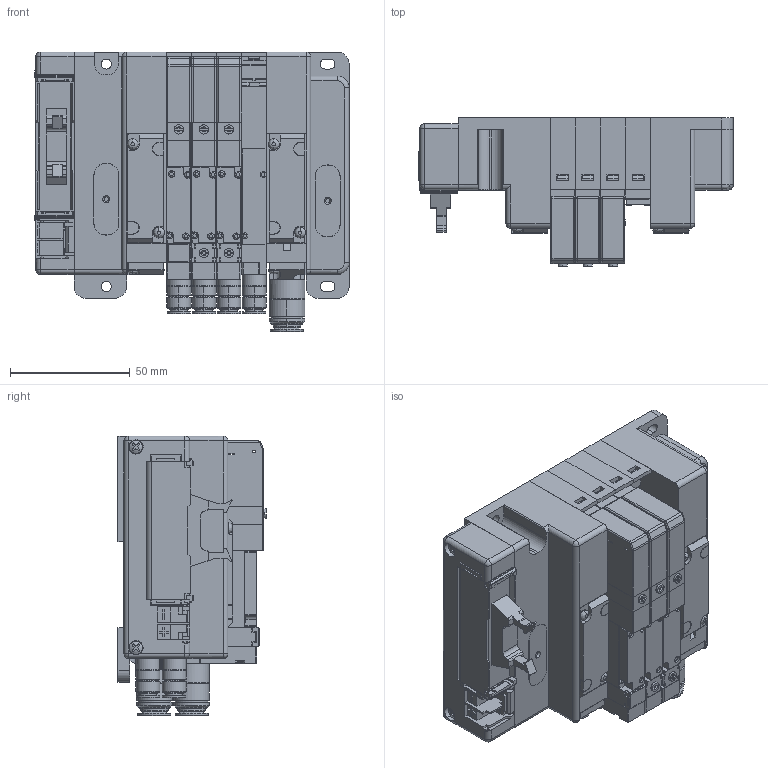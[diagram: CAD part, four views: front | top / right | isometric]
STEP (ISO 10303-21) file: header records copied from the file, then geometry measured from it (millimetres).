
FILE_DESCRIPTION( (''), '2;1');
FILE_NAME ('CVICAD02.9768.F10M4XPJ-JR-F10x_10439.stp','2020-08-31T10:41:54',(''),(''),'spGate 12.6.6','','');
FILE_SCHEMA (('AUTOMOTIVE_DESIGN'));
Length unit declared in the file: millimetre
Products named in the file (19): Assembly; F10_配管LASSY_ダイレクト; キャップ_DINねじ穴用; F10-PP; F10ZX_ValveBaseAssy; F10_配管RAssy_ダイレクト; F10_Port-PJ; F10XBPP; F10_Adptor; F_3PortBody; F10_Cap; F_Connector-L; F10T_Body; F10_SwitchBlock; F10_A1; F10_VJ; F10_DIN_配線ブロック_電源あり; 配線ブロック_F10x; F10_SwitchBlock1
Assembly tree (40 placements, depth 2):
  Assembly
    F10_配管LASSY_ダイレクト
    キャップ_DINねじ穴用  x2
    F10-PP  x3
    F10ZX_ValveBaseAssy  x4
    F10_配管RAssy_ダイレクト
    F10_Port-PJ
    F10XBPP
    F10_Adptor  x3
    F_3PortBody  x3
    F10_Cap  x3
    F_Connector-L  x3
    F10T_Body  x3
    F10_SwitchBlock  x2
    F10_A1  x3
    F10_VJ  x4
    F10_DIN_配線ブロック_電源あり
    配線ブロック_F10x
    F10_SwitchBlock1
Bounding box: 131.4 x 62.1 x 117 mm (x, y, z)
Volume: 377282.1 mm3; surface area: 150479.7 mm2
Topology: 39 solids, 40 shells, 3692 faces, 9945 edges, 6880 vertices
Faces by surface type: plane 2442, cylinder 903, bspline 317, sphere 30
Entity records: 97662 total; most frequent: CARTESIAN_POINT 13093, ORIENTED_EDGE 9835, DIRECTION 8829, COLOUR_RGB 6767, PRESENTATION_STYLE_ASSIGNMENT 6767, STYLED_ITEM 6767, EDGE_CURVE 4919, DRAUGHTING_PRE_DEFINED_CURVE_FONT 4919
